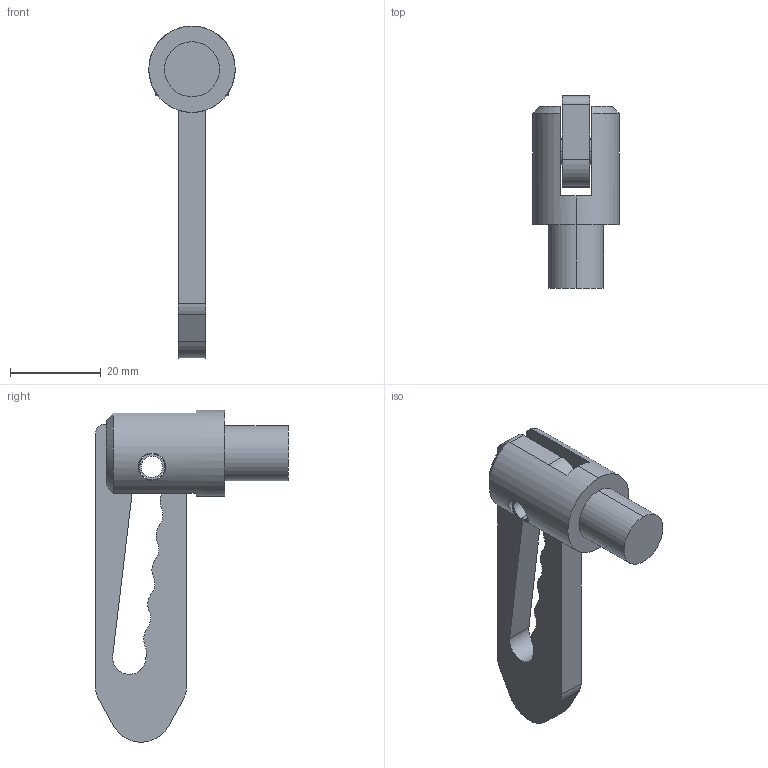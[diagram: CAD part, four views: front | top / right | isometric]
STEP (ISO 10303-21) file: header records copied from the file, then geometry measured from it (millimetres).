
FILE_DESCRIPTION (( 'STEP AP214' ), '1' );
FILE_NAME ('UES3232.STEP', '2016-09-16T06:10:29', ( 'rquinn' ), ( '' ), 'SwSTEP 2.0', 'SolidWorks 2016', '' );
FILE_SCHEMA (( 'AUTOMOTIVE_DESIGN' ));
Length unit declared in the file: millimetre
Products named in the file (3): UES3232; Rack; Pin
Assembly tree (2 placements, depth 2):
  UES3232
    Pin
    Rack
Bounding box: 19 x 42.38 x 73.01 mm (x, y, z)
Volume: 12138.9 mm3; surface area: 7277.6 mm2
Topology: 3 solids, 3 shells, 64 faces, 171 edges, 114 vertices
Faces by surface type: cylinder 37, plane 25, cone 2
Entity records: 2286 total; most frequent: CARTESIAN_POINT 494, DIRECTION 377, ORIENTED_EDGE 342, EDGE_CURVE 171, AXIS2_PLACEMENT_3D 145, VERTEX_POINT 114, LINE 87, VECTOR 87
